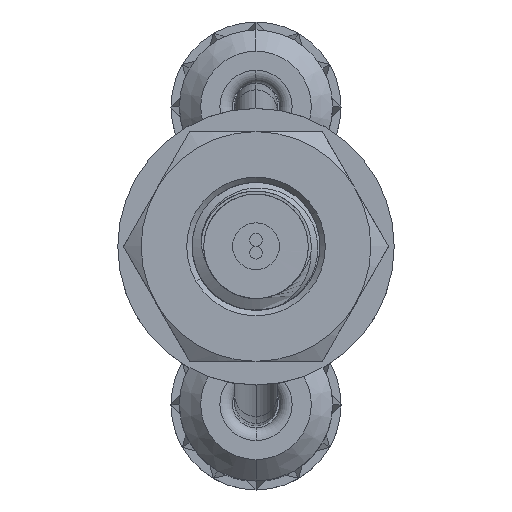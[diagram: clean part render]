
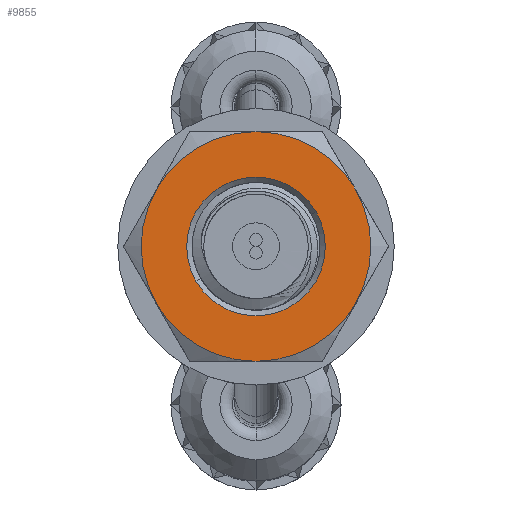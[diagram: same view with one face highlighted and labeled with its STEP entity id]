
A CAD part, top view. The second image highlights one B-rep face of the part: STEP entity #9855.
In plain terms, the highlighted planar face has unit normal (0, 0, 1).
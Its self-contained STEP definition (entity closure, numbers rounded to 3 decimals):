
#347 = FACE_BOUND ( 'NONE', #18060, .T. ) ;
#359 = EDGE_LOOP ( 'NONE', ( #18864, #16055, #17979, #9864, #9884, #5176 ) ) ;
#441 = CARTESIAN_POINT ( 'NONE',  ( -9.769, 26.76, 18.882 ) ) ;
#519 = VERTEX_POINT ( 'NONE', #10320 ) ;
#595 = ORIENTED_EDGE ( 'NONE', *, *, #9113, .T. ) ;
#802 = CARTESIAN_POINT ( 'NONE',  ( -9.769, 26.76, 18.882 ) ) ;
#1482 = VERTEX_POINT ( 'NONE', #12899 ) ;
#1975 = DIRECTION ( 'NONE',  ( 0.866, 0.5, 0. ) ) ;
#2041 = EDGE_CURVE ( 'NONE', #3895, #3412, #12204, .T. ) ;
#2733 = DIRECTION ( 'NONE',  ( 0.866, 0.5, 0. ) ) ;
#2806 = CIRCLE ( 'NONE', #4626, 2.7 ) ;
#2814 = DIRECTION ( 'NONE',  ( 0.866, 0.5, 0. ) ) ;
#2863 = DIRECTION ( 'NONE',  ( 0., 0., 1. ) ) ;
#3165 = VERTEX_POINT ( 'NONE', #7893 ) ;
#3412 = VERTEX_POINT ( 'NONE', #9951 ) ;
#3895 = VERTEX_POINT ( 'NONE', #13659 ) ;
#4178 = ORIENTED_EDGE ( 'NONE', *, *, #11649, .T. ) ;
#4234 = VERTEX_POINT ( 'NONE', #18172 ) ;
#4626 = AXIS2_PLACEMENT_3D ( 'NONE', #13043, #17562, #12906 ) ;
#4849 = AXIS2_PLACEMENT_3D ( 'NONE', #441, #10755, #15248 ) ;
#5158 = CIRCLE ( 'NONE', #5428, 1.63 ) ;
#5176 = ORIENTED_EDGE ( 'NONE', *, *, #6491, .T. ) ;
#5428 = AXIS2_PLACEMENT_3D ( 'NONE', #5654, #8708, #2814 ) ;
#5605 = VERTEX_POINT ( 'NONE', #15606 ) ;
#5654 = CARTESIAN_POINT ( 'NONE',  ( -9.769, 26.76, 18.882 ) ) ;
#6400 = DIRECTION ( 'NONE',  ( 0.866, 0.5, 0. ) ) ;
#6423 = DIRECTION ( 'NONE',  ( 0., 0., 1. ) ) ;
#6491 = EDGE_CURVE ( 'NONE', #1482, #3165, #13475, .T. ) ;
#6921 = PLANE ( 'NONE',  #12497 ) ;
#7152 = AXIS2_PLACEMENT_3D ( 'NONE', #10041, #2863, #2733 ) ;
#7178 = DIRECTION ( 'NONE',  ( 0., 0., 1. ) ) ;
#7341 = CIRCLE ( 'NONE', #4849, 2.7 ) ;
#7613 = EDGE_CURVE ( 'NONE', #11249, #3895, #15444, .T. ) ;
#7802 = DIRECTION ( 'NONE',  ( 0., 0., -1. ) ) ;
#7893 = CARTESIAN_POINT ( 'NONE',  ( -7.43, 25.41, 18.882 ) ) ;
#7904 = DIRECTION ( 'NONE',  ( 0.866, 0.5, 0. ) ) ;
#8037 = AXIS2_PLACEMENT_3D ( 'NONE', #18011, #13672, #6400 ) ;
#8416 = EDGE_CURVE ( 'NONE', #4234, #1482, #7341, .T. ) ;
#8708 = DIRECTION ( 'NONE',  ( 0., 0., -1. ) ) ;
#9113 = EDGE_CURVE ( 'NONE', #5605, #519, #11454, .T. ) ;
#9776 = CARTESIAN_POINT ( 'NONE',  ( -7.43, 28.11, 18.882 ) ) ;
#9855 = ADVANCED_FACE ( 'NONE', ( #347, #11665 ), #6921, .T. ) ;
#9864 = ORIENTED_EDGE ( 'NONE', *, *, #17685, .T. ) ;
#9884 = ORIENTED_EDGE ( 'NONE', *, *, #8416, .T. ) ;
#9951 = CARTESIAN_POINT ( 'NONE',  ( -12.107, 28.11, 18.882 ) ) ;
#10041 = CARTESIAN_POINT ( 'NONE',  ( -9.769, 26.76, 18.882 ) ) ;
#10190 = DIRECTION ( 'NONE',  ( 0.866, 0.5, 0. ) ) ;
#10320 = CARTESIAN_POINT ( 'NONE',  ( -11.18, 25.945, 18.882 ) ) ;
#10755 = DIRECTION ( 'NONE',  ( 0., 0., 1. ) ) ;
#11060 = DIRECTION ( 'NONE',  ( 0., 0., 1. ) ) ;
#11249 = VERTEX_POINT ( 'NONE', #9776 ) ;
#11454 = CIRCLE ( 'NONE', #16019, 1.63 ) ;
#11649 = EDGE_CURVE ( 'NONE', #519, #5605, #5158, .T. ) ;
#11665 = FACE_OUTER_BOUND ( 'NONE', #359, .T. ) ;
#12074 = CIRCLE ( 'NONE', #7152, 2.7 ) ;
#12204 = CIRCLE ( 'NONE', #18995, 2.7 ) ;
#12497 = AXIS2_PLACEMENT_3D ( 'NONE', #18791, #7178, #10190 ) ;
#12899 = CARTESIAN_POINT ( 'NONE',  ( -9.769, 24.06, 18.882 ) ) ;
#12906 = DIRECTION ( 'NONE',  ( 0.866, 0.5, 0. ) ) ;
#13043 = CARTESIAN_POINT ( 'NONE',  ( -9.769, 26.76, 18.882 ) ) ;
#13475 = CIRCLE ( 'NONE', #8037, 2.7 ) ;
#13659 = CARTESIAN_POINT ( 'NONE',  ( -9.769, 29.46, 18.882 ) ) ;
#13672 = DIRECTION ( 'NONE',  ( 0., 0., 1. ) ) ;
#15134 = AXIS2_PLACEMENT_3D ( 'NONE', #15278, #6423, #7904 ) ;
#15248 = DIRECTION ( 'NONE',  ( 0.866, 0.5, 0. ) ) ;
#15278 = CARTESIAN_POINT ( 'NONE',  ( -9.769, 26.76, 18.882 ) ) ;
#15444 = CIRCLE ( 'NONE', #15134, 2.7 ) ;
#15606 = CARTESIAN_POINT ( 'NONE',  ( -8.358, 27.575, 18.882 ) ) ;
#16019 = AXIS2_PLACEMENT_3D ( 'NONE', #16684, #7802, #1975 ) ;
#16055 = ORIENTED_EDGE ( 'NONE', *, *, #7613, .T. ) ;
#16684 = CARTESIAN_POINT ( 'NONE',  ( -9.769, 26.76, 18.882 ) ) ;
#17562 = DIRECTION ( 'NONE',  ( 0., 0., 1. ) ) ;
#17685 = EDGE_CURVE ( 'NONE', #3412, #4234, #12074, .T. ) ;
#17979 = ORIENTED_EDGE ( 'NONE', *, *, #2041, .T. ) ;
#18011 = CARTESIAN_POINT ( 'NONE',  ( -9.769, 26.76, 18.882 ) ) ;
#18060 = EDGE_LOOP ( 'NONE', ( #595, #4178 ) ) ;
#18172 = CARTESIAN_POINT ( 'NONE',  ( -12.107, 25.41, 18.882 ) ) ;
#18569 = DIRECTION ( 'NONE',  ( 0.866, 0.5, 0. ) ) ;
#18791 = CARTESIAN_POINT ( 'NONE',  ( -9.769, 26.76, 18.882 ) ) ;
#18864 = ORIENTED_EDGE ( 'NONE', *, *, #18915, .T. ) ;
#18915 = EDGE_CURVE ( 'NONE', #3165, #11249, #2806, .T. ) ;
#18995 = AXIS2_PLACEMENT_3D ( 'NONE', #802, #11060, #18569 ) ;
